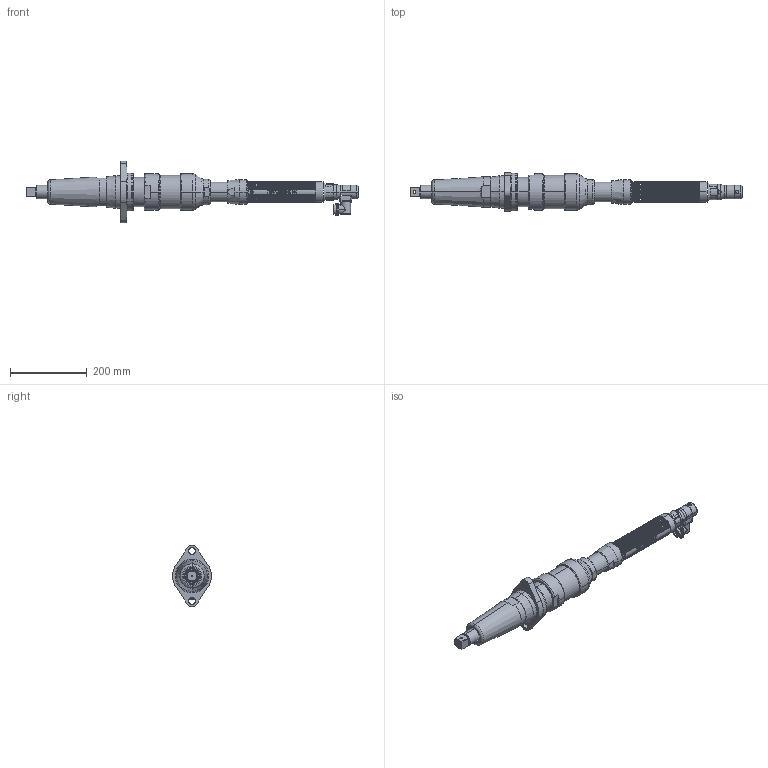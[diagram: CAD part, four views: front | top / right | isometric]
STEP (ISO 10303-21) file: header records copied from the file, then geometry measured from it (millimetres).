
FILE_DESCRIPTION((''),'2;1');
FILE_NAME('EB55MB5F1-800','2012-09-27T',('EJF1116'),(''),'PRO/ENGINEER BY PARAMETRIC TECHNOLOGY CORPORATION, 2010430','PRO/ENGINEER BY PARAMETRIC TECHNOLOGY CORPORATION, 2010430','');
FILE_SCHEMA(('CONFIG_CONTROL_DESIGN'));
Length unit declared in the file: inch
Products named in the file (1): EB55MB5F1-800
Bounding box: 867.09 x 101.25 x 160.35 mm (x, y, z)
Surface area: 213307.9 mm2 (no closed solid volume)
Topology: 0 solids, 84 shells, 393 faces, 2643 edges, 2233 vertices
Faces by surface type: cylinder 203, plane 100, torus 37, cone 35, bspline 16, extrusion 2
Entity records: 32340 total; most frequent: CARTESIAN_POINT 14007, DIRECTION 3356, ORIENTED_EDGE 3223, EDGE_CURVE 2643, VERTEX_POINT 2233, VECTOR 1354, LINE 1352, AXIS2_PLACEMENT_3D 1001
